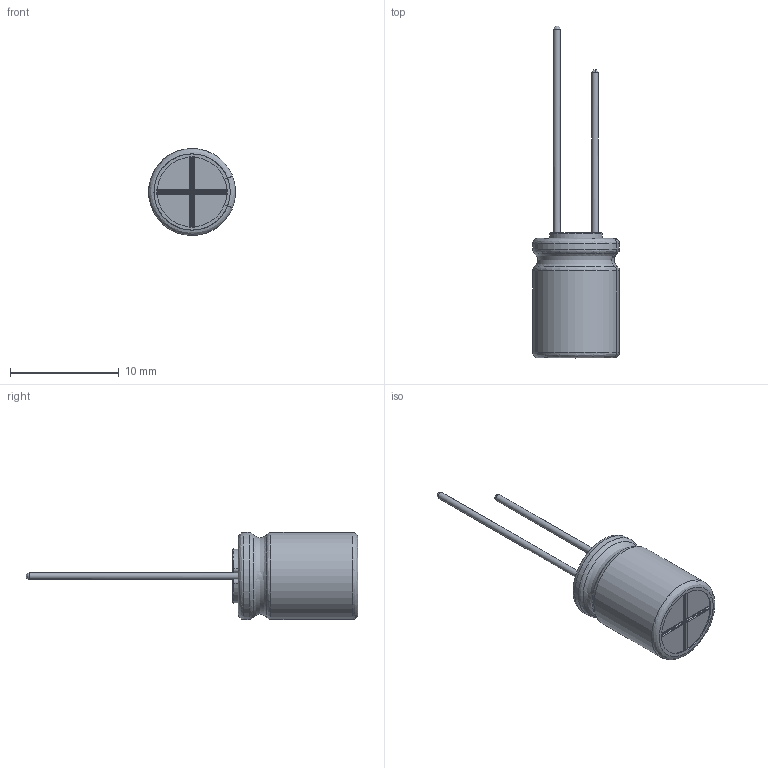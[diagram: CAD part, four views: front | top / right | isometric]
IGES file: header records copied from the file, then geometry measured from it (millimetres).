
Start section: JAMA-IS VERSION  1.0
Bounding box: 7.99 x 30.5 x 8 mm (x, y, z)
Surface area: 1041.1 mm2 (no closed solid volume)
Topology: 0 solids, 0 shells, 115 faces, 1347 edges, 1328 vertices
Faces by surface type: bspline 115
